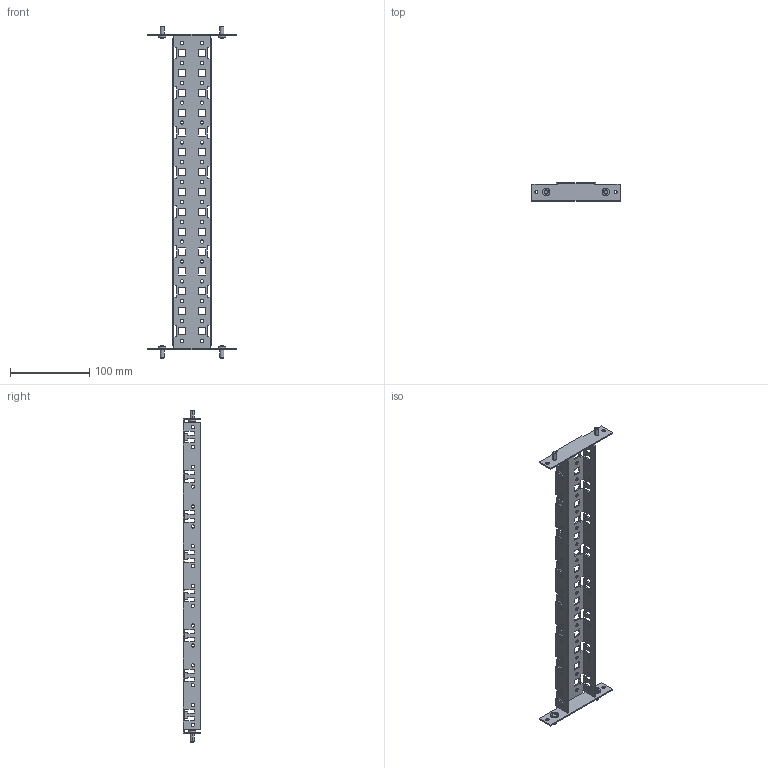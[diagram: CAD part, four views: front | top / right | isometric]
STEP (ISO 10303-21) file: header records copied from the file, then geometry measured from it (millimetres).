
FILE_DESCRIPTION(('Open CASCADE Model'),'2;1');
FILE_NAME('Open CASCADE Shape Model','2025-02-28T17:14:06',('Author'),( 'Open CASCADE'),'Open CASCADE STEP processor 7.8','Open CASCADE 7.8' ,'Unknown');
FILE_SCHEMA(('AUTOMOTIVE_DESIGN { 1 0 10303 214 1 1 1 1 }'));
Length unit declared in the file: millimetre
Products named in the file (3): Compound1; Solid1; Solid2
Assembly tree (5 placements, depth 2):
  Compound1
    Solid1
    Solid2  x4
Bounding box: 111 x 22.5 x 418 mm (x, y, z)
Volume: 52752.2 mm3; surface area: 77137.1 mm2
Topology: 5 solids, 5 shells, 654 faces, 1964 edges, 1284 vertices
Faces by surface type: plane 446, cylinder 160, cone 16, torus 16, bspline 8, sphere 8
Entity records: 20738 total; most frequent: CARTESIAN_POINT 3815, ORIENTED_EDGE 3624, DIRECTION 3290, EDGE_CURVE 1812, LINE 1486, VECTOR 1486, VERTEX_POINT 1203, AXIS2_PLACEMENT_3D 902
